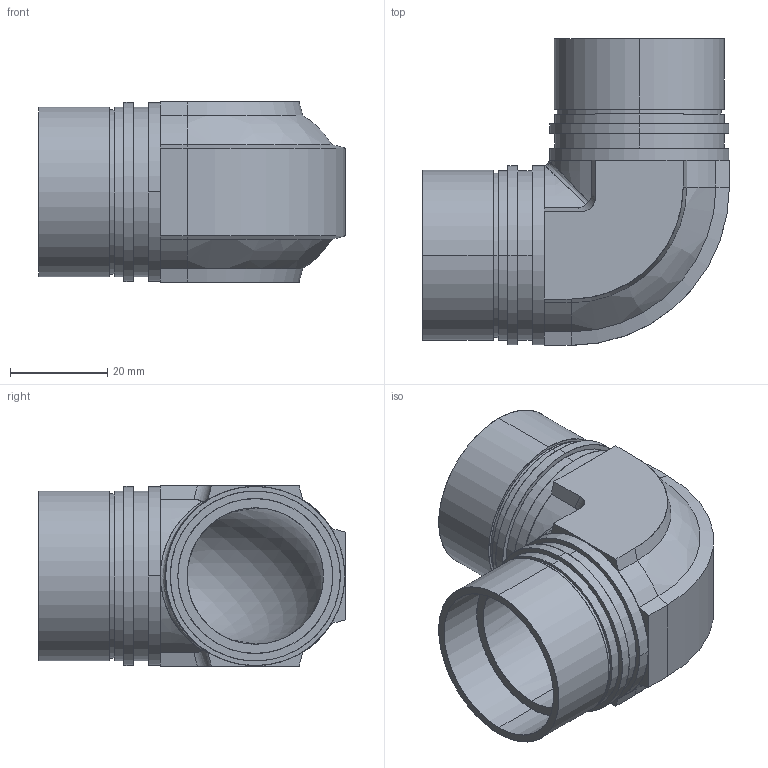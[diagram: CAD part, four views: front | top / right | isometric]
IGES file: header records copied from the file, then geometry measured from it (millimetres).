
Start section: SolidWorks IGES file using analytic representation for surfaces
Global section: file name: 70-31.8UE-P^70-31.8UE-P.IGS; native system: SolidWorks 2012; preprocessor: SolidWorks 2012; author: harada; date: 130919.130210; units: millimetre
Bounding box: 63 x 63 x 37 mm (x, y, z)
Surface area: 18999.7 mm2 (no closed solid volume)
Topology: 0 solids, 0 shells, 83 faces, 2458 edges, 2458 vertices
Faces by surface type: revolution 47, bspline 36
